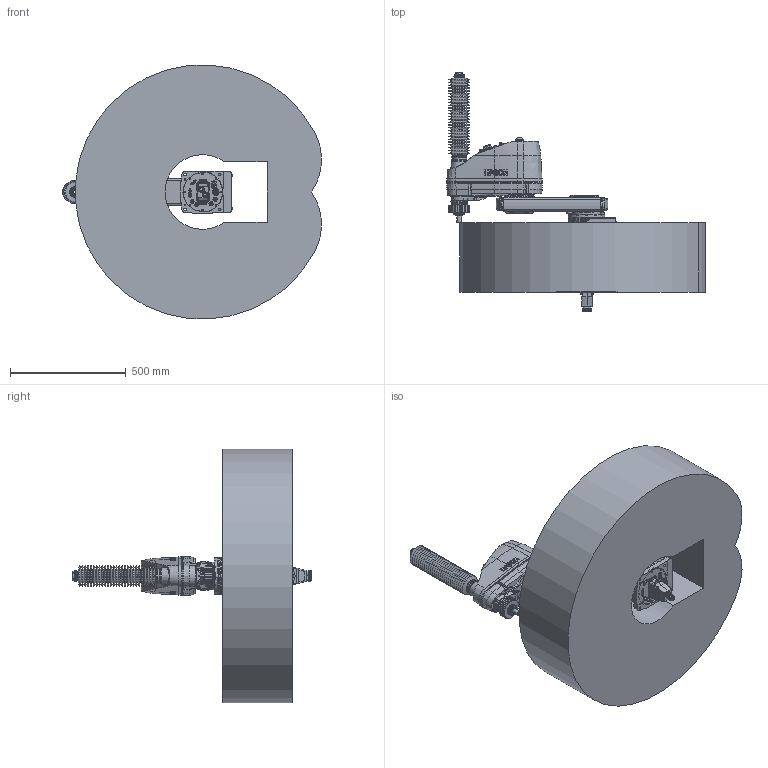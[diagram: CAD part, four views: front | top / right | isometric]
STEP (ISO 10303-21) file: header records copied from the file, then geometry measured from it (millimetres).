
FILE_DESCRIPTION( ( 'STEP AP214' ), '1' );
FILE_NAME( 'C:/Users/9607552/Desktop/GX8-B553CB_straight.stp', '2023-07-07T02:32:43', ( '' ), ( '' ), ' ', 'PARTsolutions', ' ' );
FILE_SCHEMA( ( 'AUTOMOTIVE_DESIGN { 1 0 10303 214 1 1 1 1 }' ) );
Length unit declared in the file: millimetre
Products named in the file (11): GX8-B553CB-SW; _B452CBbasegx8; _B552Sj1arm; _GX8-B553CBj1arm2; _GX8-B553CBj1arm1; _B452C_J2; _B453CZA; _2-B-long; _2-B-short; _Straight-B; _GX8-16-1-B_WS
Assembly tree (12 placements, depth 2):
  GX8-B553CB-SW
    _B452CBbasegx8
    _B552Sj1arm
    _GX8-B553CBj1arm2  x2
    _GX8-B553CBj1arm1  x2
    _B452C_J2
    _B453CZA
    _2-B-long
    _2-B-short
    _Straight-B
    _GX8-16-1-B_WS
Bounding box: 1119.76 x 1034.35 x 1098.33 mm (x, y, z)
Volume: 269998407.5 mm3; surface area: 4585485.1 mm2
Topology: 12 solids, 17 shells, 3488 faces, 8428 edges, 5433 vertices
Faces by surface type: plane 1636, cylinder 1125, cone 524, torus 161, bspline 37, sphere 5
Full cylindrical faces by diameter (mm): 1 x48, 1.18 x55, 2.459 x12, 3 x32, 3.242 x20, 3.3 x4, 3.9 x4, 4.2 x6, 4.5 x12, 4.8 x5, 4.917 x2, 5.34 x4, 5.5 x17, 6 x5, 6.2 x2, 6.647 x4, 6.8 x2, 7 x48, 8 x5, 8.5 x6, 9 x24, 10 x18, 10.106 x1, 11 x4, 11.2 x7, 11.5 x1, 12 x5, 12.25 x1, 13 x3, 13.2 x12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
Entity records: 123997 total; most frequent: CARTESIAN_POINT 23644, DIRECTION 15315, ORIENTED_EDGE 13836, EDGE_CURVE 6918, AXIS2_PLACEMENT_3D 6062, VERTEX_POINT 5015, EDGE_LOOP 4735, FACE_OUTER_BOUND 3928
